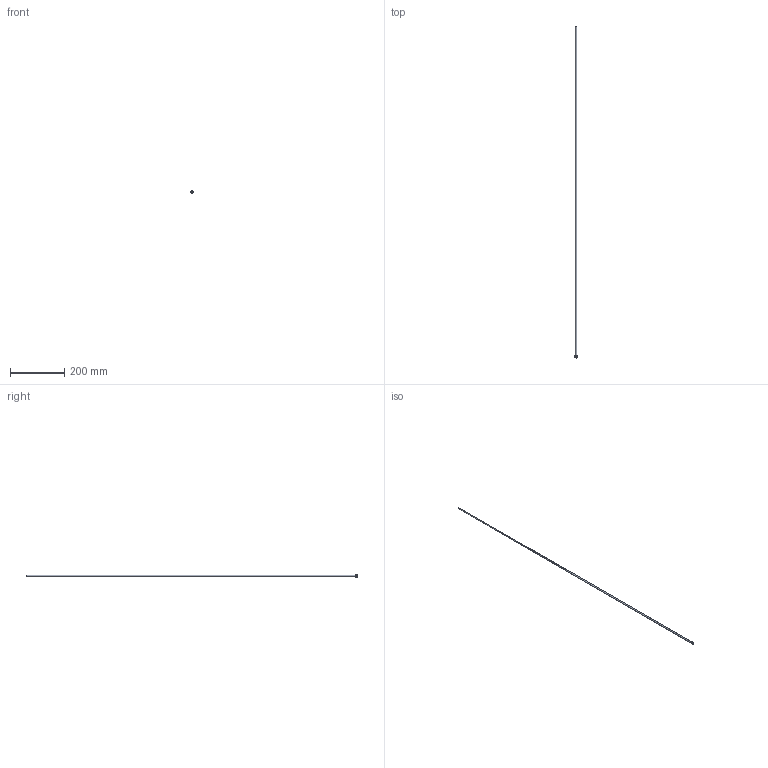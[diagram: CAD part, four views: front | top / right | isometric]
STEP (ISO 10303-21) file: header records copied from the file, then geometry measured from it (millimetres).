
FILE_DESCRIPTION(/* description */ (''),/* implementation_level */ '2;1');
FILE_NAME(/* name */ 'C:/Users/drich/Desktop/JHF187T-48 v1.step',/* time_stamp */ '2020-01-02T20:08:42-06:00',/* author */ (''),/* organization */ (''),/* preprocessor_version */ 'ST-DEVELOPER v18',/* originating_system */ 'Autodesk Translation Framework v8.12.0.6',/* authorisation */ '');
FILE_SCHEMA (('AUTOMOTIVE_DESIGN { 1 0 10303 214 3 1 1 }'));
Length unit declared in the file: inch
Products named in the file (1): JHF187T-48
Bounding box: 7.98 x 1219.2 x 7.98 mm (x, y, z)
Volume: 4598.8 mm3; surface area: 34574 mm2
Topology: 1 solids, 1 shells, 10 faces, 24 edges, 18 vertices
Faces by surface type: cylinder 4, plane 4, cone 1, torus 1
Full cylindrical faces by diameter (mm): 4.242 x1, 4.75 x1, 7.846 x1, 7.976 x1
Entity records: 354 total; most frequent: DIRECTION 65, CARTESIAN_POINT 53, ORIENTED_EDGE 48, AXIS2_PLACEMENT_3D 30, EDGE_CURVE 24, CIRCLE 19, VERTEX_POINT 18, EDGE_LOOP 14
